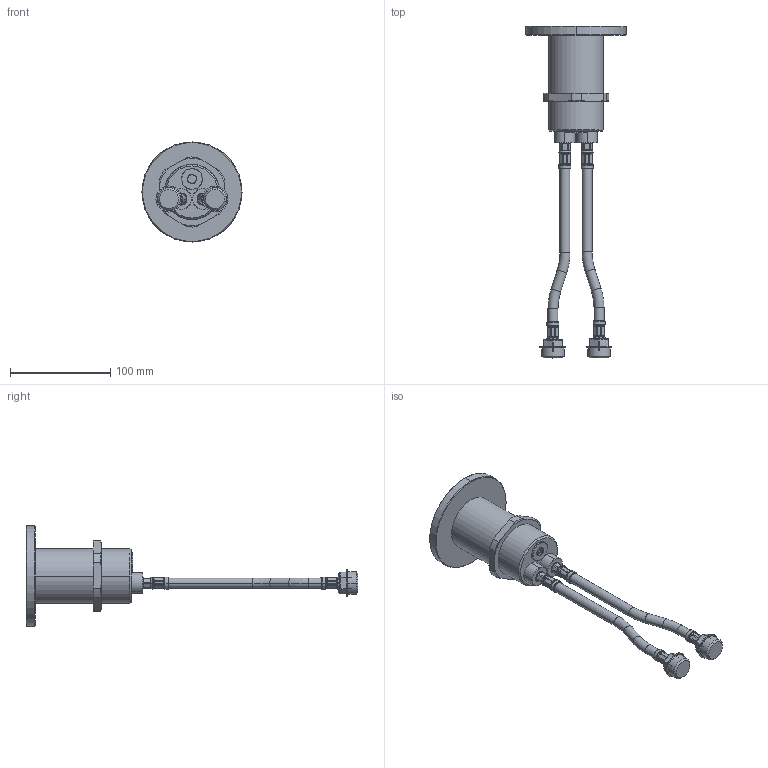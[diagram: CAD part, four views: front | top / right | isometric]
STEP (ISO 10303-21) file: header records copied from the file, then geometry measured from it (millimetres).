
FILE_DESCRIPTION (( 'STEP AP214' ), '1' );
FILE_NAME ('DS_50202C_B01_BASE.STEP', '2025-12-12T07:42:22', ( '' ), ( '' ), 'SwSTEP 2.0', 'SolidWorks 2025', '' );
FILE_SCHEMA (( 'AUTOMOTIVE_DESIGN' ));
Length unit declared in the file: millimetre
Products named in the file (1): DS_50202C_B01_BASE
Bounding box: 100 x 331.64 x 100 mm (x, y, z)
Surface area: 66467.2 mm2 (no closed solid volume)
Topology: 0 solids, 25 shells, 491 faces, 1639 edges, 1153 vertices
Faces by surface type: plane 176, cylinder 135, cone 128, torus 52
Entity records: 19058 total; most frequent: CARTESIAN_POINT 5959, ORIENTED_EDGE 2629, DIRECTION 2590, EDGE_CURVE 1639, VERTEX_POINT 1153, AXIS2_PLACEMENT_3D 1073, CIRCLE 581, EDGE_LOOP 519
